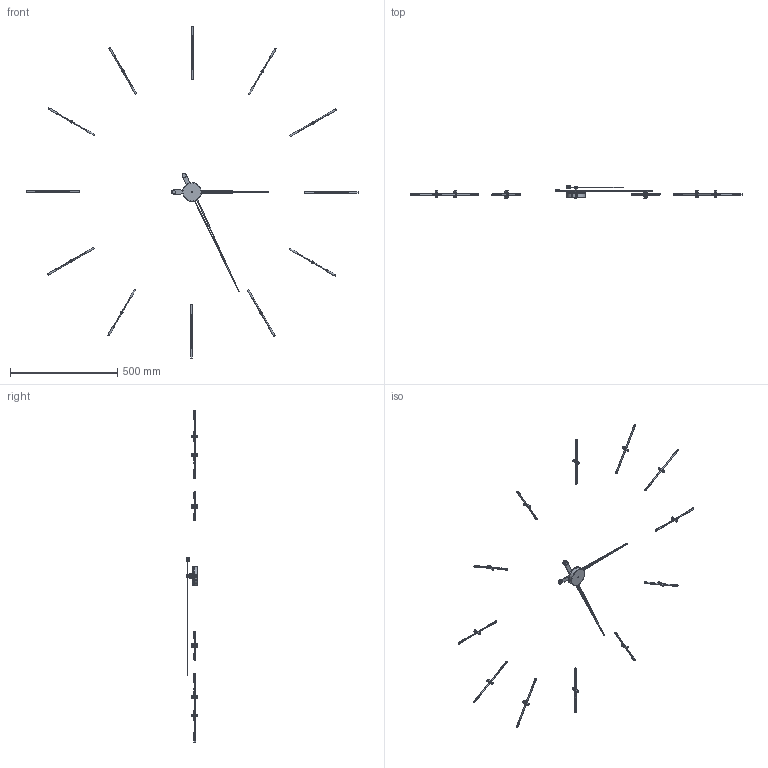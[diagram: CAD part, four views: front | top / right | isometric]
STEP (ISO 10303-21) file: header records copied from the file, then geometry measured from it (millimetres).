
FILE_DESCRIPTION (( 'STEP AP214' ), '1' );
FILE_NAME ('Merlín g_155.STEP', '2016-09-30T07:36:38', ( '' ), ( '' ), 'SwSTEP 2.0', 'SolidWorks 2016', '' );
FILE_SCHEMA (( 'AUTOMOTIVE_DESIGN' ));
Length unit declared in the file: millimetre
Products named in the file (26): Esparrago; Pieza2; Mecanismo; Tuerca 1.5; Pieza_caja_superior; Merlín g_155; Pieza_caja_inferior; Axioma_g_100; Embellecedor_señal_horaria_merlín; Contrapeso grande; aguja_horaria_calada_nogal; Caja_acero_inox; Arandela_2; Esparrago_roscado_merlin; aguja_minutera_calada_nogal; Casquillo_señal_horaria_merlín; Aguja_horaria_calada_nogal; Embellecedor; Señal_horaria_merlín; Varilla_nogal_señal_horaria_merlín; Pasante; Tuerca; Aguja_minutera_calada_nogal; Cierre_contrapeso; Contrapeso_pequeño; Anclaje_señal_horaria_merlin
Assembly tree (39 placements, depth 4):
  Merlín g_155
    Axioma_g_100
      Caja_acero_inox
        Pieza_caja_inferior
        Pieza_caja_superior
        Mecanismo
        Pieza2
      Aguja_horaria_calada_nogal
        aguja_horaria_calada_nogal
        Contrapeso_pequeño
        Cierre_contrapeso
        Arandela_2
        Tuerca
        Pasante
      Aguja_minutera_calada_nogal
        aguja_minutera_calada_nogal
        Contrapeso grande  x2
        Arandela_2
        Embellecedor
        Esparrago
        Tuerca 1.5
    Señal_horaria_merlín  x12
      Anclaje_señal_horaria_merlin
      Casquillo_señal_horaria_merlín
      Embellecedor_señal_horaria_merlín
      Esparrago_roscado_merlin
      Varilla_nogal_señal_horaria_merlín
Bounding box: 1550.18 x 55.2 x 1550.18 mm (x, y, z)
Volume: 223435.5 mm3; surface area: 221464.9 mm2
Topology: 89 solids, 89 shells, 684 faces, 1388 edges, 910 vertices
Faces by surface type: cylinder 392, plane 254, torus 26, cone 12
Entity records: 7808 total; most frequent: CARTESIAN_POINT 1354, DIRECTION 1326, ORIENTED_EDGE 988, AXIS2_PLACEMENT_3D 562, EDGE_CURVE 494, VERTEX_POINT 314, EDGE_LOOP 282, CIRCLE 280
